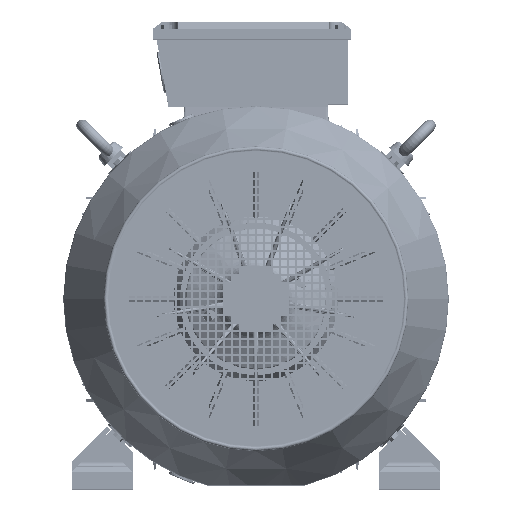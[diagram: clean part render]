
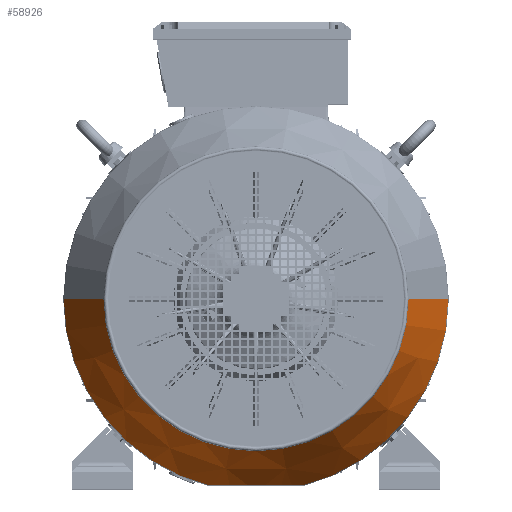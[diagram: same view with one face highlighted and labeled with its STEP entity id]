
A CAD part, top view. The second image highlights one B-rep face of the part: STEP entity #58926.
In plain terms, the highlighted conical face has half-angle 28.793 degrees and reference radius 200.371 mm.
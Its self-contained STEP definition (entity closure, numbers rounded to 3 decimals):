
#57731 = EDGE_CURVE ( 'NONE', #57734, #57737, #259563, .T. ) ;
#57734 = VERTEX_POINT ( 'NONE', #259554 ) ;
#57737 = VERTEX_POINT ( 'NONE', #259551 ) ;
#57802 = EDGE_CURVE ( 'NONE', #57734, #57805, #259761, .T. ) ;
#57805 = VERTEX_POINT ( 'NONE', #259754 ) ;
#57824 = VERTEX_POINT ( 'NONE', #259720 ) ;
#57903 = VERTEX_POINT ( 'NONE', #259915 ) ;
#57971 = EDGE_CURVE ( 'NONE', #57737, #57824, #260089, .T. ) ;
#58047 = EDGE_CURVE ( 'NONE', #57903, #57824, #260272, .T. ) ;
#58908 = EDGE_CURVE ( 'NONE', #57805, #58910, #263314, .T. ) ;
#58910 = VERTEX_POINT ( 'NONE', #263306 ) ;
#58926 = ADVANCED_FACE ( 'NONE', ( #263285 ), #263284, .T. ) ;
#58927 = EDGE_LOOP ( 'NONE', ( #58930, #58933, #58939, #58944, #58946, #59003 ) ) ;
#58930 = ORIENTED_EDGE ( 'NONE', *, *, #57802, .F. ) ;
#58933 = ORIENTED_EDGE ( 'NONE', *, *, #57731, .T. ) ;
#58939 = ORIENTED_EDGE ( 'NONE', *, *, #57971, .T. ) ;
#58944 = ORIENTED_EDGE ( 'NONE', *, *, #58047, .F. ) ;
#58946 = ORIENTED_EDGE ( 'NONE', *, *, #58949, .T. ) ;
#58949 = EDGE_CURVE ( 'NONE', #57903, #58910, #263335, .T. ) ;
#59003 = ORIENTED_EDGE ( 'NONE', *, *, #58908, .F. ) ;
#259551 = CARTESIAN_POINT ( 'NONE',  ( 200.371, 0., -208.325 ) ) ;
#259554 = CARTESIAN_POINT ( 'NONE',  ( -200.371, 0., -208.325 ) ) ;
#259556 = DIRECTION ( 'NONE',  ( 1., 0., 0. ) ) ;
#259558 = DIRECTION ( 'NONE',  ( 0., 0., 1. ) ) ;
#259560 = CARTESIAN_POINT ( 'NONE',  ( 0., 0., -208.325 ) ) ;
#259562 = AXIS2_PLACEMENT_3D ( 'NONE', #259560, #259558, #259556 ) ;
#259563 = CIRCLE ( 'NONE', #259562, 200.371 ) ;
#259720 = CARTESIAN_POINT ( 'NONE',  ( 252.335, 0., -113.775 ) ) ;
#259754 = CARTESIAN_POINT ( 'NONE',  ( -252.335, 0., -113.775 ) ) ;
#259757 = DIRECTION ( 'NONE',  ( -0.482, 0., 0.876 ) ) ;
#259758 = VECTOR ( 'NONE', #259757, 1000. ) ;
#259760 = CARTESIAN_POINT ( 'NONE',  ( -200.371, 0., -208.325 ) ) ;
#259761 = LINE ( 'NONE', #259760, #259758 ) ;
#259915 = CARTESIAN_POINT ( 'NONE',  ( 60.397, -245., -113.775 ) ) ;
#260086 = DIRECTION ( 'NONE',  ( 0.482, 0., 0.876 ) ) ;
#260087 = VECTOR ( 'NONE', #260086, 1000. ) ;
#260088 = CARTESIAN_POINT ( 'NONE',  ( 200.371, 0., -208.325 ) ) ;
#260089 = LINE ( 'NONE', #260088, #260087 ) ;
#260264 = DIRECTION ( 'NONE',  ( 1., 0., 0. ) ) ;
#260266 = DIRECTION ( 'NONE',  ( 0., 0., 1. ) ) ;
#260268 = CARTESIAN_POINT ( 'NONE',  ( 0., 0., -113.775 ) ) ;
#260270 = AXIS2_PLACEMENT_3D ( 'NONE', #260268, #260266, #260264 ) ;
#260272 = CIRCLE ( 'NONE', #260270, 252.335 ) ;
#263283 = CARTESIAN_POINT ( 'NONE',  ( 0., 0., -208.325 ) ) ;
#263284 = CONICAL_SURFACE ( 'NONE', #263374, 200.371, 0.503 ) ;
#263285 = FACE_OUTER_BOUND ( 'NONE', #58927, .T. ) ;
#263306 = CARTESIAN_POINT ( 'NONE',  ( -60.397, -245., -113.775 ) ) ;
#263307 = DIRECTION ( 'NONE',  ( 1., 0., 0. ) ) ;
#263308 = DIRECTION ( 'NONE',  ( 0., 0., 1. ) ) ;
#263310 = CARTESIAN_POINT ( 'NONE',  ( 0., 0., -113.775 ) ) ;
#263312 = AXIS2_PLACEMENT_3D ( 'NONE', #263310, #263308, #263307 ) ;
#263314 = CIRCLE ( 'NONE', #263312, 252.335 ) ;
#263335 = B_SPLINE_CURVE_WITH_KNOTS ( 'NONE', 3,
 ( #263352, #263349, #263347, #263345, #263343, #263342, #263341, #263339, #263460, #263458, #263457, #263455, #263452, #263451, #263450, #263449, #263447, #263446, #263444, #263442, #263440, #263437, #263435, #263433 ),
 .UNSPECIFIED., .F., .F.,
 ( 4, 2, 2, 2, 2, 2, 2, 2, 2, 2, 2, 4 ),
 ( 0.067, 0.075, 0.083, 0.098, 0.113, 0.121, 0.125, 0.129, 0.16, 0.168, 0.175, 0.191 ),
 .UNSPECIFIED. ) ;
#263339 = CARTESIAN_POINT ( 'NONE',  ( 25.801, -245., -124.748 ) ) ;
#263341 = CARTESIAN_POINT ( 'NONE',  ( 35.884, -245., -122.456 ) ) ;
#263342 = CARTESIAN_POINT ( 'NONE',  ( 40.869, -245., -121.047 ) ) ;
#263343 = CARTESIAN_POINT ( 'NONE',  ( 48.268, -245., -118.573 ) ) ;
#263345 = CARTESIAN_POINT ( 'NONE',  ( 50.723, -245., -117.687 ) ) ;
#263347 = CARTESIAN_POINT ( 'NONE',  ( 55.603, -245., -115.804 ) ) ;
#263349 = CARTESIAN_POINT ( 'NONE',  ( 58.014, -245., -114.812 ) ) ;
#263352 = CARTESIAN_POINT ( 'NONE',  ( 60.397, -245., -113.775 ) ) ;
#263370 = DIRECTION ( 'NONE',  ( 1., 0., 0. ) ) ;
#263371 = DIRECTION ( 'NONE',  ( 0., 0., 1. ) ) ;
#263374 = AXIS2_PLACEMENT_3D ( 'NONE', #263283, #263371, #263370 ) ;
#263433 = CARTESIAN_POINT ( 'NONE',  ( -60.397, -245., -113.775 ) ) ;
#263435 = CARTESIAN_POINT ( 'NONE',  ( -55.679, -245., -115.829 ) ) ;
#263437 = CARTESIAN_POINT ( 'NONE',  ( -50.859, -245., -117.702 ) ) ;
#263440 = CARTESIAN_POINT ( 'NONE',  ( -43.45, -245., -120.186 ) ) ;
#263442 = CARTESIAN_POINT ( 'NONE',  ( -40.943, -245., -120.961 ) ) ;
#263444 = CARTESIAN_POINT ( 'NONE',  ( -35.922, -245., -122.377 ) ) ;
#263446 = CARTESIAN_POINT ( 'NONE',  ( -33.403, -245., -123.019 ) ) ;
#263447 = CARTESIAN_POINT ( 'NONE',  ( -20.762, -245., -125.895 ) ) ;
#263449 = CARTESIAN_POINT ( 'NONE',  ( -10.505, -245., -127.114 ) ) ;
#263450 = CARTESIAN_POINT ( 'NONE',  ( 1.217, -245., -127.121 ) ) ;
#263451 = CARTESIAN_POINT ( 'NONE',  ( 2.522, -245., -127.103 ) ) ;
#263452 = CARTESIAN_POINT ( 'NONE',  ( 5.137, -245., -127.029 ) ) ;
#263455 = CARTESIAN_POINT ( 'NONE',  ( 6.449, -245., -126.972 ) ) ;
#263457 = CARTESIAN_POINT ( 'NONE',  ( 10.366, -245., -126.747 ) ) ;
#263458 = CARTESIAN_POINT ( 'NONE',  ( 12.962, -245., -126.521 ) ) ;
#263460 = CARTESIAN_POINT ( 'NONE',  ( 20.702, -245., -125.63 ) ) ;
